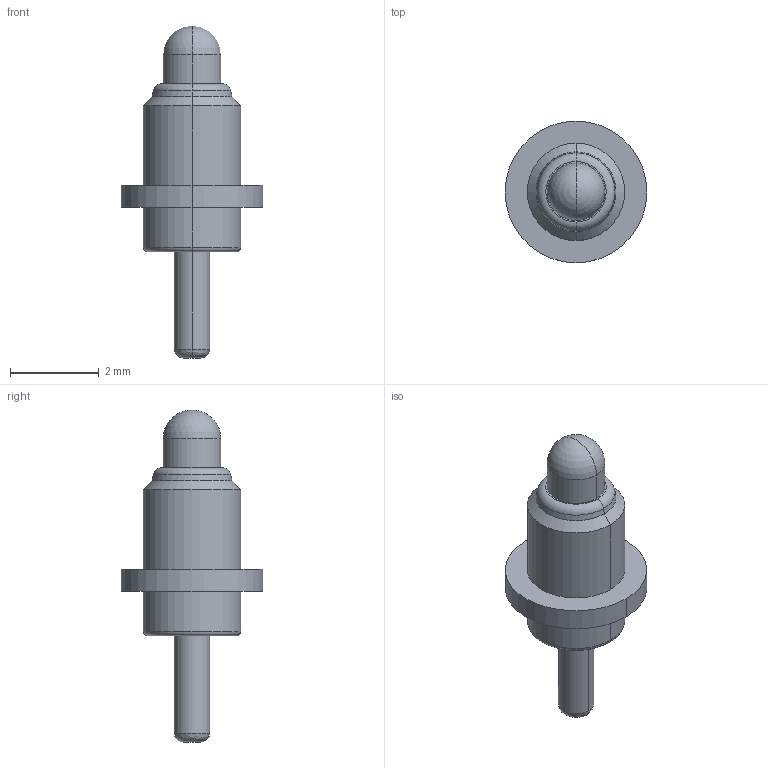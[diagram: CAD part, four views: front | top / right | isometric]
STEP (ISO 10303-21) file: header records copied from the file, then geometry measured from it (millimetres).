
FILE_DESCRIPTION((''),'2;1');
FILE_NAME('C1721-01','2022-05-18T14:51:14',('Administrator'),(''),'CREO PARAMETRIC BY PTC INC, 2018400','CREO PARAMETRIC BY PTC INC, 2018400','');
FILE_SCHEMA(('CONFIG_CONTROL_DESIGN'));
Length unit declared in the file: millimetre
Products named in the file (1): C1721-01
Bounding box: 3.2 x 3.2 x 7.5 mm (x, y, z)
Volume: 18.6 mm3; surface area: 51.5 mm2
Topology: 1 solids, 1 shells, 27 faces, 54 edges, 31 vertices
Faces by surface type: cylinder 10, plane 5, cone 4, torus 4, sphere 2, bspline 2
Entity records: 780 total; most frequent: CARTESIAN_POINT 164, DIRECTION 140, ORIENTED_EDGE 104, AXIS2_PLACEMENT_3D 63, EDGE_CURVE 52, CIRCLE 38, VERTEX_POINT 31, EDGE_LOOP 31
